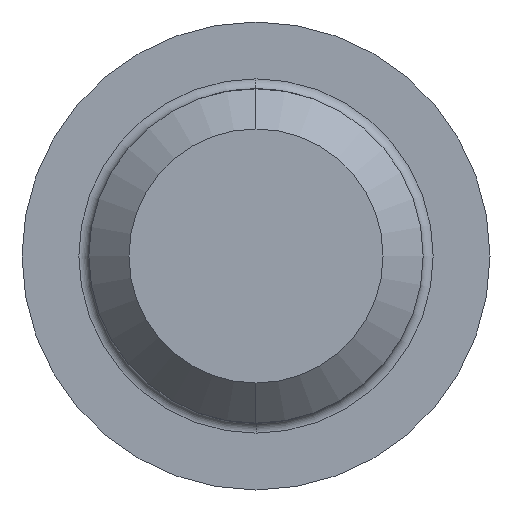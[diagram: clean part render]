
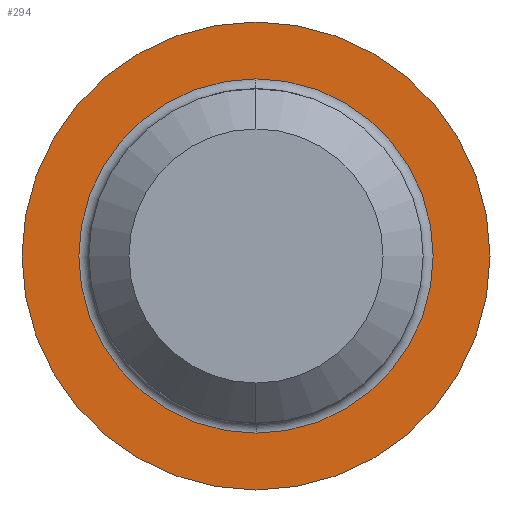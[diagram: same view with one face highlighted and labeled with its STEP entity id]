
A CAD part, left-side view. The second image highlights one B-rep face of the part: STEP entity #294.
In plain terms, the highlighted planar face has unit normal (-1, 0, 0).
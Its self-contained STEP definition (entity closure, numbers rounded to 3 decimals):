
#15 = VERTEX_POINT ( 'NONE', #247 ) ;
#16 = VERTEX_POINT ( 'NONE', #293 ) ;
#24 = EDGE_LOOP ( 'NONE', ( #26, #295 ) ) ;
#26 = ORIENTED_EDGE ( 'NONE', *, *, #296, .T. ) ;
#28 = EDGE_CURVE ( 'NONE', #15, #16, #243, .T. ) ;
#29 = ORIENTED_EDGE ( 'NONE', *, *, #28, .T. ) ;
#76 = VERTEX_POINT ( 'NONE', #206 ) ;
#79 = EDGE_CURVE ( 'NONE', #76, #80, #161, .T. ) ;
#80 = VERTEX_POINT ( 'NONE', #157 ) ;
#132 = EDGE_CURVE ( 'NONE', #16, #15, #510, .T. ) ;
#149 = DIRECTION ( 'NONE',  ( 0., 0., -1. ) ) ;
#150 = DIRECTION ( 'NONE',  ( 1., 0., 0. ) ) ;
#157 = CARTESIAN_POINT ( 'NONE',  ( 0., 0., -5.3 ) ) ;
#158 = CARTESIAN_POINT ( 'NONE',  ( 0., 0., 0. ) ) ;
#161 = CIRCLE ( 'NONE', #203, 5.3 ) ;
#203 = AXIS2_PLACEMENT_3D ( 'NONE', #158, #150, #149 ) ;
#206 = CARTESIAN_POINT ( 'NONE',  ( 0., 0., 5.3 ) ) ;
#235 = DIRECTION ( 'NONE',  ( 0., 0., 1. ) ) ;
#236 = DIRECTION ( 'NONE',  ( -1., 0., 0. ) ) ;
#237 = AXIS2_PLACEMENT_3D ( 'NONE', #241, #236, #235 ) ;
#241 = CARTESIAN_POINT ( 'NONE',  ( 0., 0., 0. ) ) ;
#243 = CIRCLE ( 'NONE', #237, 7. ) ;
#247 = CARTESIAN_POINT ( 'NONE',  ( 0., 0., -7. ) ) ;
#293 = CARTESIAN_POINT ( 'NONE',  ( 0., 0., 7. ) ) ;
#294 = ADVANCED_FACE ( 'NONE', ( #527, #556 ), #426, .F. ) ;
#295 = ORIENTED_EDGE ( 'NONE', *, *, #79, .T. ) ;
#296 = EDGE_CURVE ( 'NONE', #80, #76, #421, .T. ) ;
#298 = EDGE_LOOP ( 'NONE', ( #300, #29 ) ) ;
#300 = ORIENTED_EDGE ( 'NONE', *, *, #132, .T. ) ;
#408 = DIRECTION ( 'NONE',  ( 0., 0., -1. ) ) ;
#409 = DIRECTION ( 'NONE',  ( 1., 0., 0. ) ) ;
#410 = CARTESIAN_POINT ( 'NONE',  ( 0., 0., 0. ) ) ;
#412 = DIRECTION ( 'NONE',  ( 0., 0., -1. ) ) ;
#413 = DIRECTION ( 'NONE',  ( 1., 0., 0. ) ) ;
#414 = CARTESIAN_POINT ( 'NONE',  ( 0., 7., 0. ) ) ;
#421 = CIRCLE ( 'NONE', #428, 5.3 ) ;
#426 = PLANE ( 'NONE',  #554 ) ;
#428 = AXIS2_PLACEMENT_3D ( 'NONE', #410, #409, #408 ) ;
#487 = AXIS2_PLACEMENT_3D ( 'NONE', #531, #495, #494 ) ;
#494 = DIRECTION ( 'NONE',  ( 0., 0., 1. ) ) ;
#495 = DIRECTION ( 'NONE',  ( -1., 0., 0. ) ) ;
#510 = CIRCLE ( 'NONE', #487, 7. ) ;
#527 = FACE_BOUND ( 'NONE', #24, .T. ) ;
#531 = CARTESIAN_POINT ( 'NONE',  ( 0., 0., 0. ) ) ;
#554 = AXIS2_PLACEMENT_3D ( 'NONE', #414, #413, #412 ) ;
#556 = FACE_OUTER_BOUND ( 'NONE', #298, .T. ) ;
